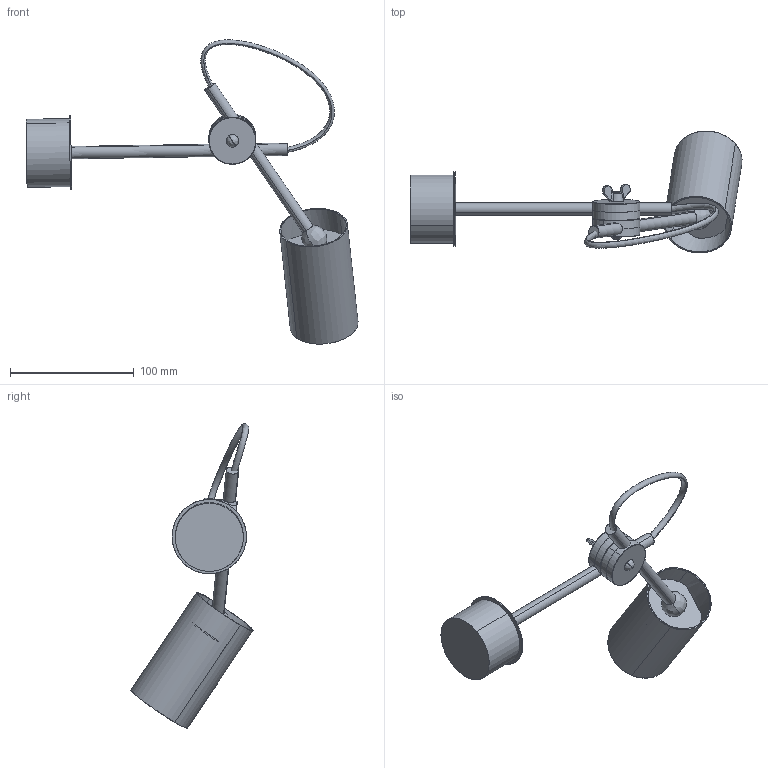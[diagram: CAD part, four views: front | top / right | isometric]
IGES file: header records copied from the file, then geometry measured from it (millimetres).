
Start section: SolidWorks IGES file using analytic representation for surfaces
Global section: file name: Z:\Modele 3D_WWW\_KOLEKCJE_WWW\EYE-S-5654-5656-5655-6842\EYE-S-5654-5656-5655-6842.IGS; native system: SolidWorks 2020; preprocessor: SolidWorks 2020; author: gabriela.tworek; date: 210319.230243; units: millimetre
Bounding box: 268.06 x 98.58 x 245.64 mm (x, y, z)
Surface area: 90582.6 mm2 (no closed solid volume)
Topology: 0 solids, 0 shells, 177 faces, 4089 edges, 4085 vertices
Faces by surface type: revolution 94, bspline 83
